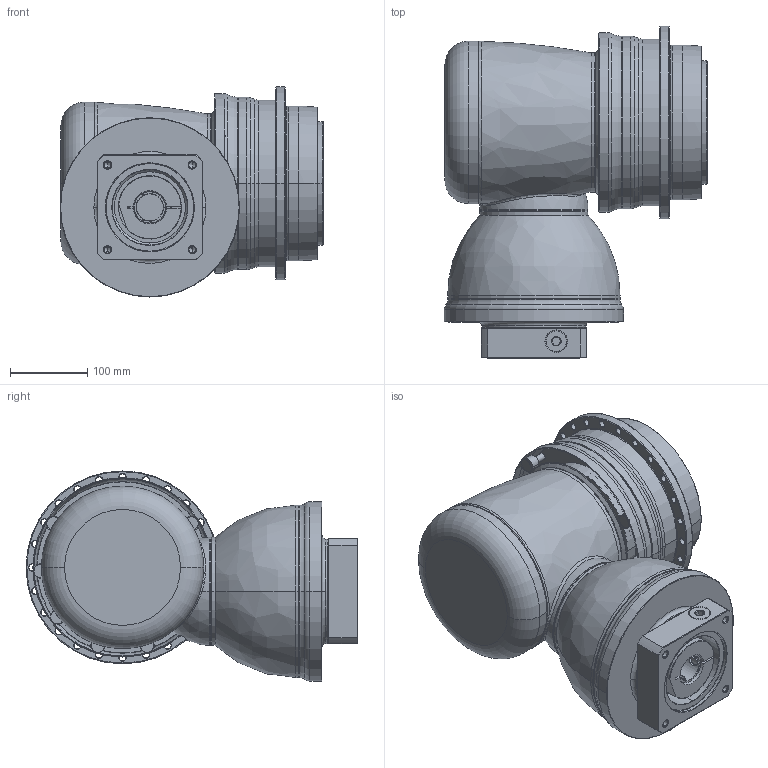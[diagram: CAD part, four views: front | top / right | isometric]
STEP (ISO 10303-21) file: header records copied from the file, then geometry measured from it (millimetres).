
FILE_DESCRIPTION((''),'2;1');
FILE_NAME('APK200_2ST_35-P0409800201_ASM','2018-06-04T',('D00080'),(''),'PRO/ENGINEER BY PARAMETRIC TECHNOLOGY CORPORATION, 2008170','PRO/ENGINEER BY PARAMETRIC TECHNOLOGY CORPORATION, 2008170','');
FILE_SCHEMA(('CONFIG_CONTROL_DESIGN'));
Length unit declared in the file: millimetre
Products named in the file (13): P1008600002; P1802610011; P0278601003; P0359601103; P1211600001; P1315600001; P1007601001; P1318610101; P0503800012; P0912601001; P0409800201; 21711422019; APK200_2ST_35-P0409800201_ASM
Assembly tree (12 placements, depth 2):
  APK200_2ST_35-P0409800201_ASM
    P1008600002
    P1802610011
    P0278601003
    P0359601103
    P1211600001
    P1315600001
    P1007601001
    P1318610101
    P0503800012
    P0912601001
    P0409800201
    21711422019
Bounding box: 341 x 429.25 x 271.75 mm (x, y, z)
Volume: 17534402 mm3; surface area: 1150749.4 mm2
Topology: 13 solids, 38 shells, 876 faces, 2041 edges, 1239 vertices
Faces by surface type: cylinder 357, cone 240, plane 154, torus 90, bspline 33, sphere 2
Entity records: 31569 total; most frequent: CARTESIAN_POINT 10835, DIRECTION 4789, ORIENTED_EDGE 3892, AXIS2_PLACEMENT_3D 2063, EDGE_CURVE 1997, VERTEX_POINT 1239, CIRCLE 1185, EDGE_LOOP 1032
